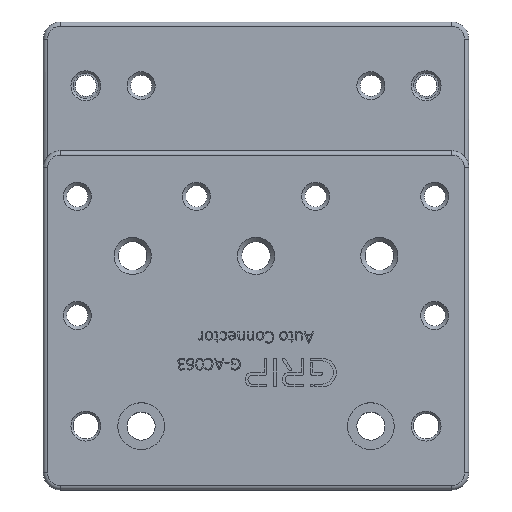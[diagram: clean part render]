
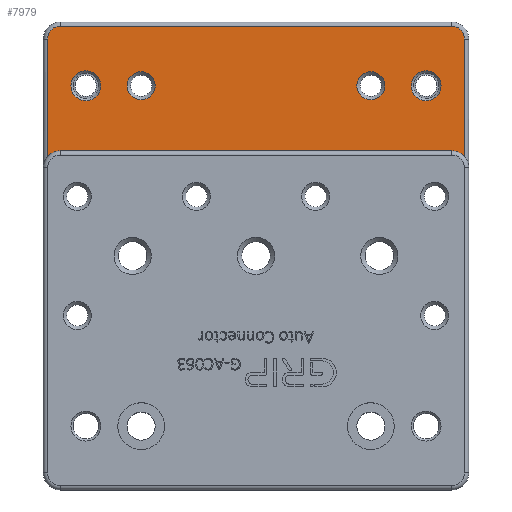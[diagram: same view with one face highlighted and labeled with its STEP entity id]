
A CAD part, top view. The second image highlights one B-rep face of the part: STEP entity #7979.
In plain terms, the highlighted planar face has unit normal (0, 0, 1).
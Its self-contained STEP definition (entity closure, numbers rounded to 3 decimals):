
#695=FACE_BOUND('',#1704,.T.);
#696=FACE_BOUND('',#1705,.T.);
#697=FACE_BOUND('',#1706,.T.);
#698=FACE_BOUND('',#1707,.T.);
#830=PLANE('',#8363);
#1207=FACE_OUTER_BOUND('',#1703,.T.);
#1703=EDGE_LOOP('',(#6871,#6872,#6873,#6874,#6875,#6876,#6877,#6878));
#1704=EDGE_LOOP('',(#6879));
#1705=EDGE_LOOP('',(#6880));
#1706=EDGE_LOOP('',(#6881));
#1707=EDGE_LOOP('',(#6882));
#2277=LINE('',#17333,#2833);
#2278=LINE('',#17337,#2834);
#2279=LINE('',#17341,#2835);
#2280=LINE('',#17345,#2836);
#2833=VECTOR('',#9586,10.);
#2834=VECTOR('',#9589,10.);
#2835=VECTOR('',#9592,10.);
#2836=VECTOR('',#9595,10.);
#3006=CIRCLE('',#8362,3.3);
#3007=CIRCLE('',#8364,3.);
#3008=CIRCLE('',#8365,3.);
#3009=CIRCLE('',#8366,4.);
#3010=CIRCLE('',#8367,4.);
#3011=CIRCLE('',#8368,3.3);
#3012=CIRCLE('',#8369,3.51);
#3013=CIRCLE('',#8370,3.51);
#3741=VERTEX_POINT('',#17327);
#3742=VERTEX_POINT('',#17331);
#3743=VERTEX_POINT('',#17332);
#3744=VERTEX_POINT('',#17334);
#3745=VERTEX_POINT('',#17336);
#3746=VERTEX_POINT('',#17338);
#3747=VERTEX_POINT('',#17340);
#3748=VERTEX_POINT('',#17342);
#3749=VERTEX_POINT('',#17344);
#3750=VERTEX_POINT('',#17347);
#3751=VERTEX_POINT('',#17349);
#3752=VERTEX_POINT('',#17351);
#4797=EDGE_CURVE('',#3741,#3741,#3006,.T.);
#4799=EDGE_CURVE('',#3742,#3743,#2277,.T.);
#4800=EDGE_CURVE('',#3744,#3742,#3007,.T.);
#4801=EDGE_CURVE('',#3745,#3744,#2278,.T.);
#4802=EDGE_CURVE('',#3746,#3745,#3008,.T.);
#4803=EDGE_CURVE('',#3747,#3746,#2279,.T.);
#4804=EDGE_CURVE('',#3748,#3747,#3009,.F.);
#4805=EDGE_CURVE('',#3749,#3748,#2280,.T.);
#4806=EDGE_CURVE('',#3743,#3749,#3010,.F.);
#4807=EDGE_CURVE('',#3750,#3750,#3011,.T.);
#4808=EDGE_CURVE('',#3751,#3751,#3012,.T.);
#4809=EDGE_CURVE('',#3752,#3752,#3013,.T.);
#6871=ORIENTED_EDGE('',*,*,#4799,.F.);
#6872=ORIENTED_EDGE('',*,*,#4800,.F.);
#6873=ORIENTED_EDGE('',*,*,#4801,.F.);
#6874=ORIENTED_EDGE('',*,*,#4802,.F.);
#6875=ORIENTED_EDGE('',*,*,#4803,.F.);
#6876=ORIENTED_EDGE('',*,*,#4804,.F.);
#6877=ORIENTED_EDGE('',*,*,#4805,.F.);
#6878=ORIENTED_EDGE('',*,*,#4806,.F.);
#6879=ORIENTED_EDGE('',*,*,#4807,.F.);
#6880=ORIENTED_EDGE('',*,*,#4808,.F.);
#6881=ORIENTED_EDGE('',*,*,#4809,.F.);
#6882=ORIENTED_EDGE('',*,*,#4797,.F.);
#7979=ADVANCED_FACE('',(#1207,#695,#696,#697,#698),#830,.F.);
#8362=AXIS2_PLACEMENT_3D('',#17328,#9581,#9582);
#8363=AXIS2_PLACEMENT_3D('',#17330,#9584,#9585);
#8364=AXIS2_PLACEMENT_3D('',#17335,#9587,#9588);
#8365=AXIS2_PLACEMENT_3D('',#17339,#9590,#9591);
#8366=AXIS2_PLACEMENT_3D('',#17343,#9593,#9594);
#8367=AXIS2_PLACEMENT_3D('',#17346,#9596,#9597);
#8368=AXIS2_PLACEMENT_3D('',#17348,#9598,#9599);
#8369=AXIS2_PLACEMENT_3D('',#17350,#9600,#9601);
#8370=AXIS2_PLACEMENT_3D('',#17352,#9602,#9603);
#9581=DIRECTION('center_axis',(0.,0.,1.));
#9582=DIRECTION('ref_axis',(-1.,0.,0.));
#9584=DIRECTION('center_axis',(0.,0.,-1.));
#9585=DIRECTION('ref_axis',(-1.,0.,0.));
#9586=DIRECTION('',(0.,-1.,0.));
#9587=DIRECTION('center_axis',(0.,0.,-1.));
#9588=DIRECTION('ref_axis',(0.707,0.707,0.));
#9589=DIRECTION('',(1.,0.,0.));
#9590=DIRECTION('center_axis',(0.,0.,-1.));
#9591=DIRECTION('ref_axis',(-0.707,0.707,0.));
#9592=DIRECTION('',(0.,1.,0.));
#9593=DIRECTION('center_axis',(0.,0.,-1.));
#9594=DIRECTION('ref_axis',(-0.707,0.707,0.));
#9595=DIRECTION('',(-1.,0.,0.));
#9596=DIRECTION('center_axis',(0.,0.,-1.));
#9597=DIRECTION('ref_axis',(0.707,0.707,0.));
#9598=DIRECTION('center_axis',(0.,0.,1.));
#9599=DIRECTION('ref_axis',(-1.,0.,0.));
#9600=DIRECTION('center_axis',(0.,0.,1.));
#9601=DIRECTION('ref_axis',(-1.,0.,0.));
#9602=DIRECTION('center_axis',(0.,0.,1.));
#9603=DIRECTION('ref_axis',(-1.,0.,0.));
#17327=CARTESIAN_POINT('',(30.3,40.,6.));
#17328=CARTESIAN_POINT('Origin',(27.,40.,6.));
#17330=CARTESIAN_POINT('Origin',(0.,49.7,6.));
#17331=CARTESIAN_POINT('',(49.,51.,6.));
#17332=CARTESIAN_POINT('',(49.,23.346,6.));
#17333=CARTESIAN_POINT('',(49.,-2.65,6.));
#17334=CARTESIAN_POINT('',(46.,54.,6.));
#17335=CARTESIAN_POINT('Origin',(46.,51.,6.));
#17336=CARTESIAN_POINT('',(-46.,54.,6.));
#17337=CARTESIAN_POINT('',(25.,54.,6.));
#17338=CARTESIAN_POINT('',(-49.,51.,6.));
#17339=CARTESIAN_POINT('Origin',(-46.,51.,6.));
#17340=CARTESIAN_POINT('',(-49.,23.346,6.));
#17341=CARTESIAN_POINT('',(-49.,52.35,6.));
#17342=CARTESIAN_POINT('',(-46.,24.7,6.));
#17343=CARTESIAN_POINT('Origin',(-46.,20.7,6.));
#17344=CARTESIAN_POINT('',(46.,24.7,6.));
#17345=CARTESIAN_POINT('',(-100.,24.7,6.));
#17346=CARTESIAN_POINT('Origin',(46.,20.7,6.));
#17347=CARTESIAN_POINT('',(-23.7,40.,6.));
#17348=CARTESIAN_POINT('Origin',(-27.,40.,6.));
#17349=CARTESIAN_POINT('',(-36.49,40.,6.));
#17350=CARTESIAN_POINT('Origin',(-40.,40.,6.));
#17351=CARTESIAN_POINT('',(43.51,40.,6.));
#17352=CARTESIAN_POINT('Origin',(40.,40.,6.));
